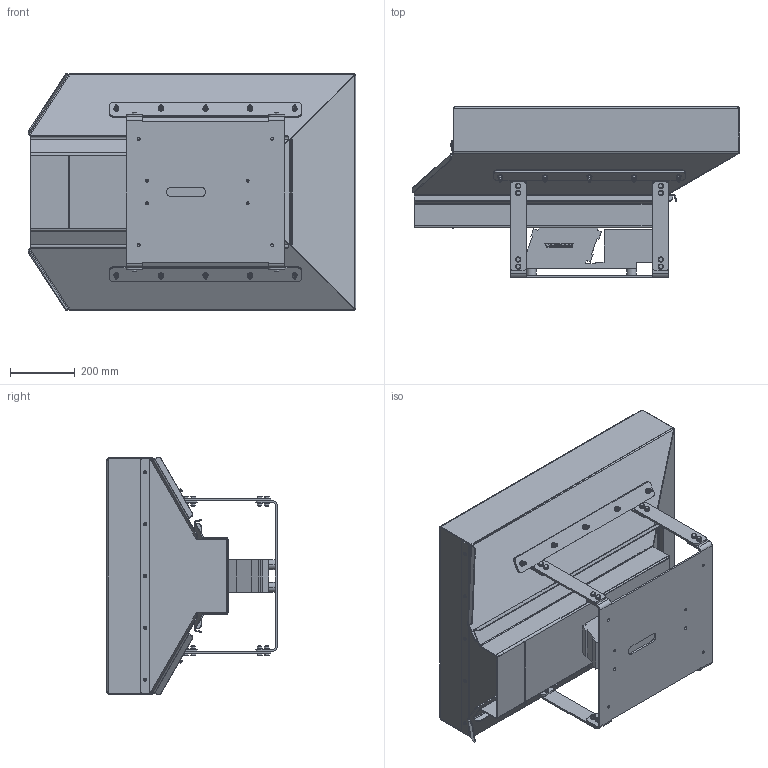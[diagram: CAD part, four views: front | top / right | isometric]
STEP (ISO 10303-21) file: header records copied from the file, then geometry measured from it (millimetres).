
FILE_DESCRIPTION (( 'STEP AP214' ), '1' );
FILE_NAME ('PD151_WIBRAMET.STEP', '2020-10-27T14:29:14', ( '' ), ( '' ), 'SwSTEP 2.0', 'SolidWorks 2017', '' );
FILE_SCHEMA (( 'AUTOMOTIVE_DESIGN' ));
Length unit declared in the file: millimetre
Products named in the file (22): PD151.09; hex nut style 1 gradeab_iso_ISO - 4032 - M5 - W - N; PD151.01; hex nut style 1 gradeab_iso_ISO - 4032 - M8 - W - N; socket set screw flat point_iso_ISO 4026 - M8 x 30-N; socket countersunk head screw_iso_ISO 10642 - M8 x 20 - 20N; PD151_WIBRAMET; PD151.05; PD151.100; PD151.04; socket button head screw_iso_ISO 7380 - M5 x 16 - 16N; PD151.10; PD151.08; PD151.02; hex screw gradec_iso_ISO 4018 - M8 x 25-WN; PD151.13_zas³onka; plain washer normal grade a_iso_Washer ISO 7089 - 8; PL3_LONG; PD151.12; PD151.06; plain washer normal grade a_iso_Washer ISO 7089 - 5; PD151.07
Assembly tree (136 placements, depth 3):
  PD151_WIBRAMET
    PL3_LONG
    PD151.01
    PD151.100
      PD151.02
      PD151.04
      PD151.06
      PD151.05
    PD151.07
    PD151.08  x2
    PD151.09  x4
    PD151.10  x2
    PD151.13_zas³onka
    PD151.12
    socket countersunk head screw_iso_ISO 10642 - M8 x 20 - 20N  x4
    plain washer normal grade a_iso_Washer ISO 7089 - 5  x10
    socket button head screw_iso_ISO 7380 - M5 x 16 - 16N  x5
    hex nut style 1 gradeab_iso_ISO - 4032 - M5 - W - N  x5
    socket set screw flat point_iso_ISO 4026 - M8 x 30-N  x10
    plain washer normal grade a_iso_Washer ISO 7089 - 8  x42
    hex nut style 1 gradeab_iso_ISO - 4032 - M8 - W - N  x26
    hex screw gradec_iso_ISO 4018 - M8 x 25-WN  x16
Bounding box: 1010.18 x 525.23 x 733.79 mm (x, y, z)
Volume: 11580238.2 mm3; surface area: 4587295.2 mm2
Topology: 140 solids, 140 shells, 3503 faces, 8205 edges, 5037 vertices
Faces by surface type: plane 1770, cylinder 844, cone 546, bspline 315, torus 18, sphere 10
Entity records: 58326 total; most frequent: CARTESIAN_POINT 21789, ORIENTED_EDGE 7702, DIRECTION 6429, EDGE_CURVE 3851, VECTOR 2529, LINE 2529, VERTEX_POINT 2476, AXIS2_PLACEMENT_3D 1950
